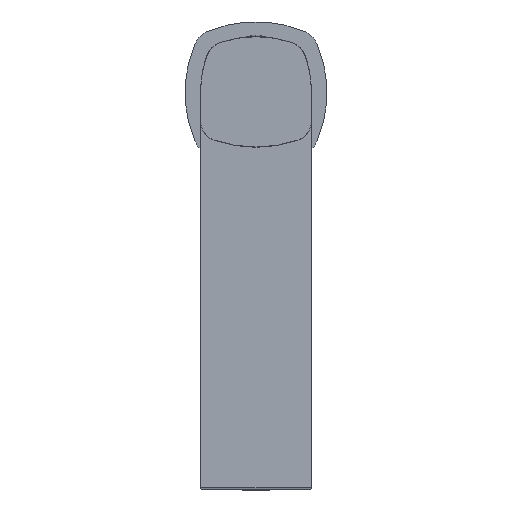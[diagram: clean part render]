
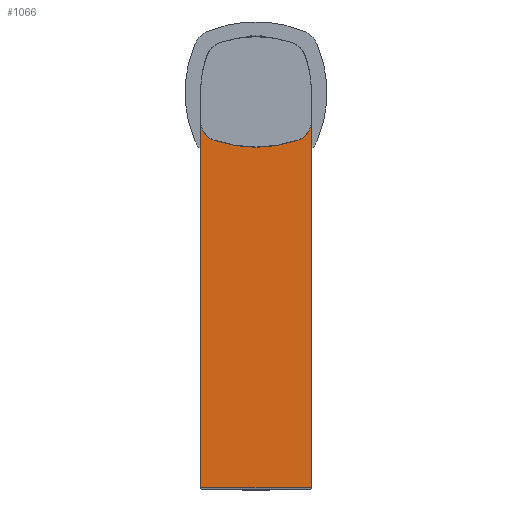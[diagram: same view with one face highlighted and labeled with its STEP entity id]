
A CAD part, top view. The second image highlights one B-rep face of the part: STEP entity #1066.
In plain terms, the highlighted planar face has unit normal (0, 0, 1).
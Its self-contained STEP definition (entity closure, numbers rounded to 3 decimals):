
#214 = VERTEX_POINT('',#215);
#215 = CARTESIAN_POINT('',(-17.465,12.433,
    136.5));
#252 = VERTEX_POINT('',#253);
#253 = CARTESIAN_POINT('',(-19.5,0.,
    136.5));
#259 = EDGE_CURVE('',#252,#214,#260,.T.);
#260 = CIRCLE('',#261,39.);
#261 = AXIS2_PLACEMENT_3D('',#262,#263,#264);
#262 = CARTESIAN_POINT('',(19.5,0.,136.5));
#263 = DIRECTION('',(0.,0.,-1.));
#264 = DIRECTION('',(-0.928,-0.373,-0.));
#412 = VERTEX_POINT('',#413);
#413 = CARTESIAN_POINT('',(17.465,12.433,
    136.5));
#419 = EDGE_CURVE('',#412,#420,#422,.T.);
#420 = VERTEX_POINT('',#421);
#421 = CARTESIAN_POINT('',(19.5,0.,
    136.5));
#422 = CIRCLE('',#423,39.);
#423 = AXIS2_PLACEMENT_3D('',#424,#425,#426);
#424 = CARTESIAN_POINT('',(-19.5,0.,136.5));
#425 = DIRECTION('',(0.,0.,-1.));
#426 = DIRECTION('',(0.928,-0.373,0.));
#461 = EDGE_CURVE('',#412,#462,#464,.T.);
#462 = VERTEX_POINT('',#463);
#463 = CARTESIAN_POINT('',(12.433,17.465,
    136.5));
#464 = CIRCLE('',#465,8.);
#465 = AXIS2_PLACEMENT_3D('',#466,#467,#468);
#466 = CARTESIAN_POINT('',(9.883,9.883,136.5
    ));
#467 = DIRECTION('',(0.,0.,1.));
#468 = DIRECTION('',(1.,0.,-0.));
#494 = EDGE_CURVE('',#462,#495,#497,.T.);
#495 = VERTEX_POINT('',#496);
#496 = CARTESIAN_POINT('',(-12.433,17.465,
    136.5));
#497 = CIRCLE('',#498,39.);
#498 = AXIS2_PLACEMENT_3D('',#499,#500,#501);
#499 = CARTESIAN_POINT('',(0.,-19.5,
    136.5));
#500 = DIRECTION('',(0.,0.,1.));
#501 = DIRECTION('',(-0.373,0.928,0.));
#527 = EDGE_CURVE('',#495,#214,#528,.T.);
#528 = CIRCLE('',#529,8.);
#529 = AXIS2_PLACEMENT_3D('',#530,#531,#532);
#530 = CARTESIAN_POINT('',(-9.883,9.883,136.5
    ));
#531 = DIRECTION('',(0.,0.,1.));
#532 = DIRECTION('',(1.,0.,-0.));
#1008 = EDGE_CURVE('',#1009,#252,#1011,.T.);
#1009 = VERTEX_POINT('',#1010);
#1010 = CARTESIAN_POINT('',(-19.5,-139.2,136.5));
#1011 = LINE('',#1012,#1013);
#1012 = CARTESIAN_POINT('',(-19.5,-139.2,136.5));
#1013 = VECTOR('',#1014,1.);
#1014 = DIRECTION('',(0.,1.,0.));
#1048 = EDGE_CURVE('',#420,#1049,#1051,.T.);
#1049 = VERTEX_POINT('',#1050);
#1050 = CARTESIAN_POINT('',(19.5,-139.2,136.5));
#1051 = LINE('',#1052,#1053);
#1052 = CARTESIAN_POINT('',(19.5,-139.2,136.5));
#1053 = VECTOR('',#1054,1.);
#1054 = DIRECTION('',(0.,-1.,0.));
#1066 = ADVANCED_FACE('',(#1067,#1082),#1102,.T.);
#1067 = FACE_BOUND('',#1068,.T.);
#1068 = EDGE_LOOP('',(#1069,#1070,#1076,#1077,#1078,#1079,#1080,#1081));
#1069 = ORIENTED_EDGE('',*,*,#1008,.F.);
#1070 = ORIENTED_EDGE('',*,*,#1071,.T.);
#1071 = EDGE_CURVE('',#1009,#1049,#1072,.T.);
#1072 = LINE('',#1073,#1074);
#1073 = CARTESIAN_POINT('',(-19.5,-139.2,136.5));
#1074 = VECTOR('',#1075,1.);
#1075 = DIRECTION('',(1.,0.,0.));
#1076 = ORIENTED_EDGE('',*,*,#1048,.F.);
#1077 = ORIENTED_EDGE('',*,*,#419,.F.);
#1078 = ORIENTED_EDGE('',*,*,#461,.T.);
#1079 = ORIENTED_EDGE('',*,*,#494,.T.);
#1080 = ORIENTED_EDGE('',*,*,#527,.T.);
#1081 = ORIENTED_EDGE('',*,*,#259,.F.);
#1082 = FACE_BOUND('',#1083,.T.);
#1083 = EDGE_LOOP('',(#1084,#1095));
#1084 = ORIENTED_EDGE('',*,*,#1085,.T.);
#1085 = EDGE_CURVE('',#1086,#1088,#1090,.T.);
#1086 = VERTEX_POINT('',#1087);
#1087 = CARTESIAN_POINT('',(0.,-17.496,
    136.5));
#1088 = VERTEX_POINT('',#1089);
#1089 = CARTESIAN_POINT('',(0.,17.496,
    136.5));
#1090 = CIRCLE('',#1091,17.496);
#1091 = AXIS2_PLACEMENT_3D('',#1092,#1093,#1094);
#1092 = CARTESIAN_POINT('',(0.,0.,136.5)
  );
#1093 = DIRECTION('',(0.,0.,-1.));
#1094 = DIRECTION('',(0.,1.,0.));
#1095 = ORIENTED_EDGE('',*,*,#1096,.T.);
#1096 = EDGE_CURVE('',#1088,#1086,#1097,.T.);
#1097 = CIRCLE('',#1098,17.496);
#1098 = AXIS2_PLACEMENT_3D('',#1099,#1100,#1101);
#1099 = CARTESIAN_POINT('',(0.,0.,136.5)
  );
#1100 = DIRECTION('',(0.,0.,-1.));
#1101 = DIRECTION('',(0.,1.,0.));
#1102 = PLANE('',#1103);
#1103 = AXIS2_PLACEMENT_3D('',#1104,#1105,#1106);
#1104 = CARTESIAN_POINT('',(19.5,-140.,136.5));
#1105 = DIRECTION('',(0.,0.,1.));
#1106 = DIRECTION('',(0.,1.,0.));
